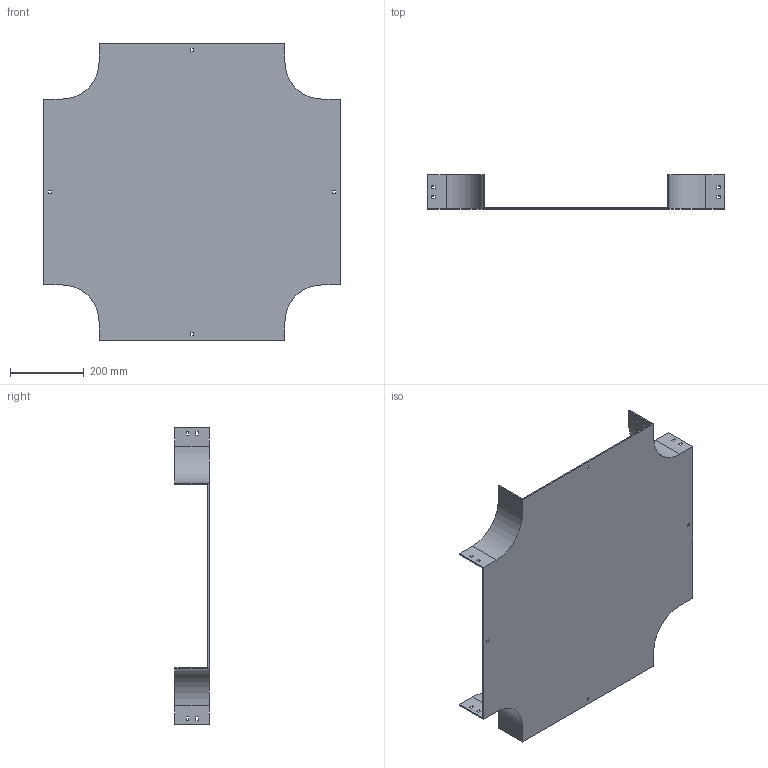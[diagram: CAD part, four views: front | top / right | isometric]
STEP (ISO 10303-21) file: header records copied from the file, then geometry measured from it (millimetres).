
FILE_DESCRIPTION (( 'STEP AP214' ), '1' );
FILE_NAME ('17B1I500.step', '2025-02-21T09:58:56', ( '' ), ( '' ), 'SwSTEP 2.0', 'SolidWorks 2023', '' );
FILE_SCHEMA (( 'AUTOMOTIVE_DESIGN' ));
Length unit declared in the file: millimetre
Products named in the file (1): 17B1I500
Bounding box: 804 x 92.5 x 804 mm (x, y, z)
Volume: 2296507.6 mm3; surface area: 1327775.2 mm2
Topology: 1 solids, 1 shells, 114 faces, 336 edges, 224 vertices
Faces by surface type: plane 106, cylinder 8
Entity records: 3839 total; most frequent: CARTESIAN_POINT 675, ORIENTED_EDGE 672, DIRECTION 582, EDGE_CURVE 336, LINE 320, VECTOR 320, VERTEX_POINT 224, EDGE_LOOP 154
